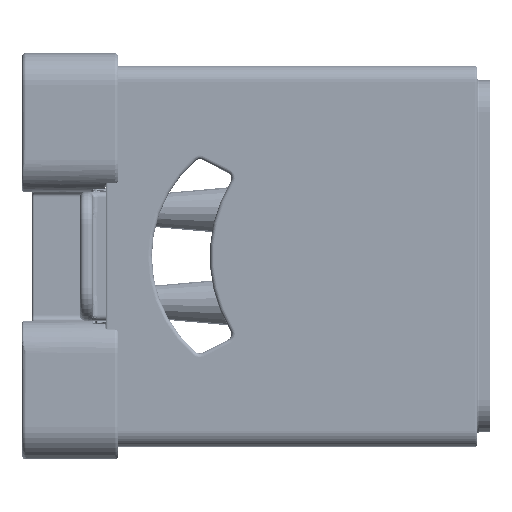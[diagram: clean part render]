
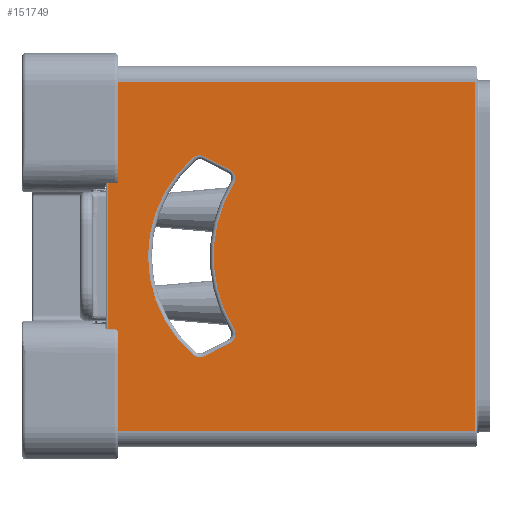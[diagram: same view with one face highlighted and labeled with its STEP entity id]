
A CAD part, left-side view. The second image highlights one B-rep face of the part: STEP entity #151749.
In plain terms, the highlighted planar face has unit normal (-1, 0, 0).
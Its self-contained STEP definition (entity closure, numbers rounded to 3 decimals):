
#133 = ORIENTED_EDGE ( 'NONE', *, *, #66197, .T. ) ;
#135 = ORIENTED_EDGE ( 'NONE', *, *, #66199, .T. ) ;
#137 = ORIENTED_EDGE ( 'NONE', *, *, #66201, .T. ) ;
#138 = ORIENTED_EDGE ( 'NONE', *, *, #66203, .T. ) ;
#141 = ORIENTED_EDGE ( 'NONE', *, *, #66205, .T. ) ;
#143 = ORIENTED_EDGE ( 'NONE', *, *, #66207, .T. ) ;
#145 = ORIENTED_EDGE ( 'NONE', *, *, #66209, .T. ) ;
#147 = ORIENTED_EDGE ( 'NONE', *, *, #66211, .T. ) ;
#148 = ORIENTED_EDGE ( 'NONE', *, *, #66213, .F. ) ;
#150 = ORIENTED_EDGE ( 'NONE', *, *, #66215, .T. ) ;
#152 = ORIENTED_EDGE ( 'NONE', *, *, #66191, .T. ) ;
#154 = ORIENTED_EDGE ( 'NONE', *, *, #66217, .T. ) ;
#15656 = AXIS2_PLACEMENT_3D ( 'NONE', #105196, #105197, #105198 ) ;
#15657 = AXIS2_PLACEMENT_3D ( 'NONE', #105201, #105202, #105203 ) ;
#15658 = AXIS2_PLACEMENT_3D ( 'NONE', #105210, #105211, #105212 ) ;
#15659 = AXIS2_PLACEMENT_3D ( 'NONE', #105215, #105216, #105217 ) ;
#15660 = AXIS2_PLACEMENT_3D ( 'NONE', #105220, #105221, #105222 ) ;
#15661 = AXIS2_PLACEMENT_3D ( 'NONE', #105229, #105230, #105231 ) ;
#66191 = EDGE_CURVE ( 'NONE', #116567, #116556, #149133, .T. ) ;
#66197 = EDGE_CURVE ( 'NONE', #116569, #116558, #149160, .T. ) ;
#66199 = EDGE_CURVE ( 'NONE', #116558, #116571, #149168, .T. ) ;
#66201 = EDGE_CURVE ( 'NONE', #116571, #116572, #149179, .T. ) ;
#66203 = EDGE_CURVE ( 'NONE', #116572, #116573, #149192, .T. ) ;
#66205 = EDGE_CURVE ( 'NONE', #116573, #116574, #149197, .T. ) ;
#66207 = EDGE_CURVE ( 'NONE', #116574, #116575, #149204, .T. ) ;
#66209 = EDGE_CURVE ( 'NONE', #116575, #116576, #149213, .T. ) ;
#66211 = EDGE_CURVE ( 'NONE', #116576, #116569, #149222, .T. ) ;
#66213 = EDGE_CURVE ( 'NONE', #116554, #116577, #149229, .T. ) ;
#66215 = EDGE_CURVE ( 'NONE', #116554, #116567, #149238, .T. ) ;
#66217 = EDGE_CURVE ( 'NONE', #116556, #116577, #149246, .T. ) ;
#101272 = AXIS2_PLACEMENT_3D ( 'NONE', #135282, #135300, #135302 ) ;
#105180 = CARTESIAN_POINT ( 'NONE',  ( -198., 289., -135.5 ) ) ;
#105182 = DIRECTION ( 'NONE',  ( 0., -1., 0. ) ) ;
#105196 = CARTESIAN_POINT ( 'NONE',  ( -198., 95.704, 0. ) ) ;
#105197 = DIRECTION ( 'NONE',  ( -1., 0., 0. ) ) ;
#105198 = DIRECTION ( 'NONE',  ( 0., 0., -1. ) ) ;
#105201 = CARTESIAN_POINT ( 'NONE',  ( -198., 196.17, -60.539 ) ) ;
#105202 = DIRECTION ( 'NONE',  ( 1., 0., 0. ) ) ;
#105203 = DIRECTION ( 'NONE',  ( 0., 0., -1. ) ) ;
#105204 = CARTESIAN_POINT ( 'NONE',  ( -198., 187.004, -64.85 ) ) ;
#105205 = DIRECTION ( 'NONE',  ( 0., 0.891, -0.454 ) ) ;
#105210 = CARTESIAN_POINT ( 'NONE',  ( -198., 215.822, -70.544 ) ) ;
#105211 = DIRECTION ( 'NONE',  ( 1., 0., 0. ) ) ;
#105212 = DIRECTION ( 'NONE',  ( 0., 0., -1. ) ) ;
#105215 = CARTESIAN_POINT ( 'NONE',  ( -198., 154.582, 0. ) ) ;
#105216 = DIRECTION ( 'NONE',  ( 1., 0., 0. ) ) ;
#105217 = DIRECTION ( 'NONE',  ( 0., 0., -1. ) ) ;
#105220 = CARTESIAN_POINT ( 'NONE',  ( -198., 215.822, 70.544 ) ) ;
#105221 = DIRECTION ( 'NONE',  ( 1., 0., 0. ) ) ;
#105222 = DIRECTION ( 'NONE',  ( 0., 0., -1. ) ) ;
#105223 = CARTESIAN_POINT ( 'NONE',  ( -198., 296.57, 120.63 ) ) ;
#105224 = DIRECTION ( 'NONE',  ( 0., -0.891, -0.454 ) ) ;
#105229 = CARTESIAN_POINT ( 'NONE',  ( -198., 196.17, 60.539 ) ) ;
#105230 = DIRECTION ( 'NONE',  ( 1., 0., 0. ) ) ;
#105231 = DIRECTION ( 'NONE',  ( 0., 0., -1. ) ) ;
#105232 = CARTESIAN_POINT ( 'NONE',  ( -198., 289., 135.5 ) ) ;
#105234 = DIRECTION ( 'NONE',  ( 0., -1., 0. ) ) ;
#105236 = CARTESIAN_POINT ( 'NONE',  ( -198., 287.5, -135.5 ) ) ;
#105237 = DIRECTION ( 'NONE',  ( 0., 0., -1. ) ) ;
#105240 = CARTESIAN_POINT ( 'NONE',  ( -198., 1.5, 135.5 ) ) ;
#105241 = DIRECTION ( 'NONE',  ( 0., 0., 1. ) ) ;
#116554 = VERTEX_POINT ( 'NONE', #143972 ) ;
#116556 = VERTEX_POINT ( 'NONE', #143975 ) ;
#116558 = VERTEX_POINT ( 'NONE', #143979 ) ;
#116567 = VERTEX_POINT ( 'NONE', #143996 ) ;
#116569 = VERTEX_POINT ( 'NONE', #143999 ) ;
#116571 = VERTEX_POINT ( 'NONE', #144003 ) ;
#116572 = VERTEX_POINT ( 'NONE', #144005 ) ;
#116573 = VERTEX_POINT ( 'NONE', #144007 ) ;
#116574 = VERTEX_POINT ( 'NONE', #144009 ) ;
#116575 = VERTEX_POINT ( 'NONE', #144011 ) ;
#116576 = VERTEX_POINT ( 'NONE', #144012 ) ;
#116577 = VERTEX_POINT ( 'NONE', #144014 ) ;
#120977 = EDGE_LOOP ( 'NONE', ( #133, #135, #137, #138, #141, #143, #145, #147 ) ) ;
#120997 = EDGE_LOOP ( 'NONE', ( #148, #150, #152, #154 ) ) ;
#125876 = FACE_BOUND ( 'NONE', #120977, .T. ) ;
#125884 = FACE_OUTER_BOUND ( 'NONE', #120997, .T. ) ;
#135282 = CARTESIAN_POINT ( 'NONE',  ( -198., 289., 135.5 ) ) ;
#135297 = PLANE ( 'NONE',  #101272 ) ;
#135300 = DIRECTION ( 'NONE',  ( 1., 0., 0. ) ) ;
#135302 = DIRECTION ( 'NONE',  ( 0., 0., -1. ) ) ;
#143972 = CARTESIAN_POINT ( 'NONE',  ( -198., 287.5, 135.5 ) ) ;
#143975 = CARTESIAN_POINT ( 'NONE',  ( -198., 1.5, -135.5 ) ) ;
#143979 = CARTESIAN_POINT ( 'NONE',  ( -198., 189.318, -56.41 ) ) ;
#143996 = CARTESIAN_POINT ( 'NONE',  ( -198., 287.5, -135.5 ) ) ;
#143999 = CARTESIAN_POINT ( 'NONE',  ( -198., 189.318, 56.41 ) ) ;
#144003 = CARTESIAN_POINT ( 'NONE',  ( -198., 192.54, -67.669 ) ) ;
#144005 = CARTESIAN_POINT ( 'NONE',  ( -198., 212.193, -77.674 ) ) ;
#144007 = CARTESIAN_POINT ( 'NONE',  ( -198., 221.067, -76.586 ) ) ;
#144009 = CARTESIAN_POINT ( 'NONE',  ( -198., 221.067, 76.586 ) ) ;
#144011 = CARTESIAN_POINT ( 'NONE',  ( -198., 212.193, 77.674 ) ) ;
#144012 = CARTESIAN_POINT ( 'NONE',  ( -198., 192.54, 67.669 ) ) ;
#144014 = CARTESIAN_POINT ( 'NONE',  ( -198., 1.5, 135.5 ) ) ;
#149133 = LINE ( 'NONE', #105180, #149142 ) ;
#149142 = VECTOR ( 'NONE', #105182, 1000. ) ;
#149160 = CIRCLE ( 'NONE', #15656, 109.296 ) ;
#149168 = CIRCLE ( 'NONE', #15657, 8. ) ;
#149179 = LINE ( 'NONE', #105204, #149188 ) ;
#149188 = VECTOR ( 'NONE', #105205, 1000. ) ;
#149192 = CIRCLE ( 'NONE', #15658, 8. ) ;
#149197 = CIRCLE ( 'NONE', #15659, 101.418 ) ;
#149204 = CIRCLE ( 'NONE', #15660, 8. ) ;
#149213 = LINE ( 'NONE', #105223, #149220 ) ;
#149220 = VECTOR ( 'NONE', #105224, 1000. ) ;
#149222 = CIRCLE ( 'NONE', #15661, 8. ) ;
#149229 = LINE ( 'NONE', #105232, #149235 ) ;
#149235 = VECTOR ( 'NONE', #105234, 1000. ) ;
#149238 = LINE ( 'NONE', #105236, #149244 ) ;
#149244 = VECTOR ( 'NONE', #105237, 1000. ) ;
#149246 = LINE ( 'NONE', #105240, #149253 ) ;
#149253 = VECTOR ( 'NONE', #105241, 1000. ) ;
#151749 = ADVANCED_FACE ( 'NONE', ( #125876, #125884 ), #135297, .F. ) ;
